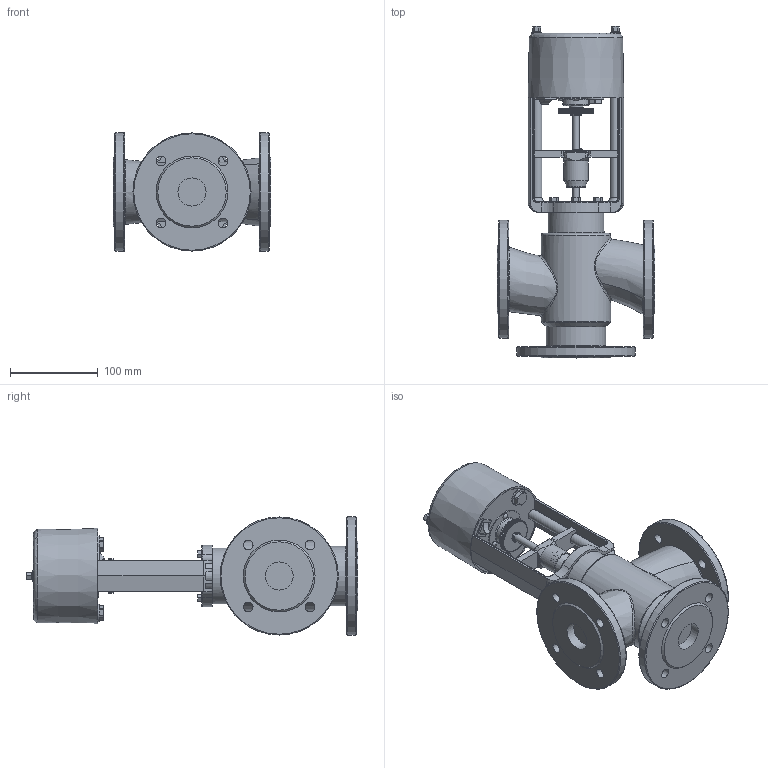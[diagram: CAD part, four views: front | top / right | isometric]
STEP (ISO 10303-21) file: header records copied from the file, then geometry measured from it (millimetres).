
FILE_DESCRIPTION(/* description */ (''),/* implementation_level */ '2;1');
FILE_NAME(/* name */ 'D:\Работа\work by\2017.01.17. клапаны для КПСР 3-хходоввые\Готовые файлы\ES 05\iges\ду 32.stp',/* time_stamp */ '2017-02-19T18:04:31+03:00',/* author */ ('Admin'),/* organization */ ('unknown'),/* preprocessor_version */ 'ST-DEVELOPER v16.1',/* originating_system */ 'Autodesk Inventor 2016',/* authorisation */ '');
FILE_SCHEMA (('AUTOMOTIVE_DESIGN { 1 0 10303 214 3 1 1 }'));
Products named in the file (1): ду 32
Bounding box: 180 x 379.25 x 135 mm (x, y, z)
Volume: 1715272.2 mm3; surface area: 309106 mm2
Topology: 2 solids, 2 shells, 1227 faces, 3400 edges, 2200 vertices
Faces by surface type: plane 564, cylinder 314, bspline 220, cone 66, torus 52, sphere 11
Full cylindrical faces by diameter (mm): 5.1 x4, 6 x3, 7 x4, 7.1 x1, 8 x3, 8.4 x1, 8.5 x2, 9.18 x1, 9.2 x1, 9.22 x1, 9.3 x1, 11 x13, 11.9 x1, 11.97 x1, 12 x6, 13.5 x1, 14 x2, 14.5 x1, 16 x3, 16.8 x1, 16.9 x1, 17.1 x1, 18 x2, 19.3 x1, 20 x3, 22 x1, 25.7 x4, 26 x1, 26.5 x1, 28 x2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
Entity records: 45245 total; most frequent: CARTESIAN_POINT 15959, ORIENTED_EDGE 6394, DIRECTION 5496, EDGE_CURVE 3194, VERTEX_POINT 2150, AXIS2_PLACEMENT_3D 1862, LINE 1772, VECTOR 1772
